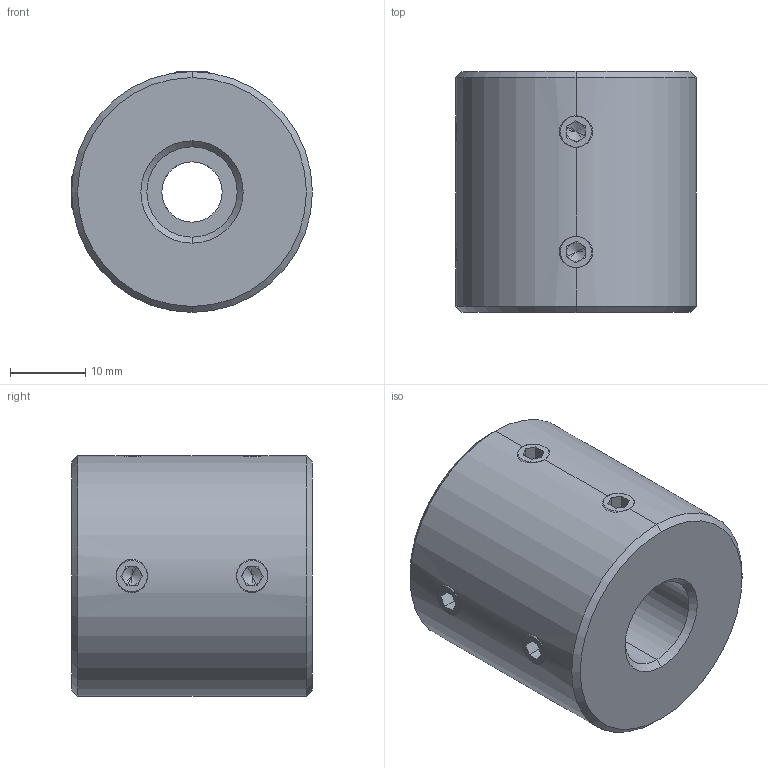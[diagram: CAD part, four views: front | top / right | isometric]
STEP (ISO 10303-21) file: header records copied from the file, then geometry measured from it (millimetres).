
FILE_DESCRIPTION (( 'STEP AP214' ), '1' );
FILE_NAME ('LL-D-D32L32-8-12½¨Ä£.STEP', '2022-07-22T11:25:06', ( '' ), ( '' ), 'SwSTEP 2.0', 'SolidWorks 2022', '' );
FILE_SCHEMA (( 'AUTOMOTIVE_DESIGN' ));
Length unit declared in the file: millimetre
Products named in the file (1): LL-D-D32L32-8-12膘耀
Bounding box: 32 x 32 x 32 mm (x, y, z)
Volume: 22815.8 mm3; surface area: 5875.9 mm2
Topology: 1 solids, 1 shells, 113 faces, 286 edges, 176 vertices
Faces by surface type: plane 59, cone 32, cylinder 22
Entity records: 3760 total; most frequent: CARTESIAN_POINT 1050, DIRECTION 558, ORIENTED_EDGE 556, EDGE_CURVE 278, AXIS2_PLACEMENT_3D 206, VERTEX_POINT 176, LINE 146, VECTOR 146
